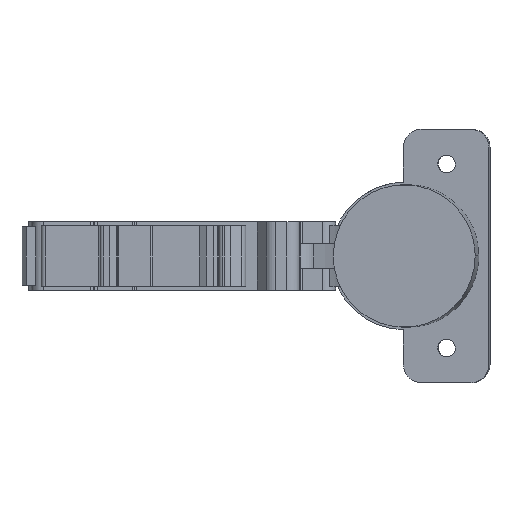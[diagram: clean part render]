
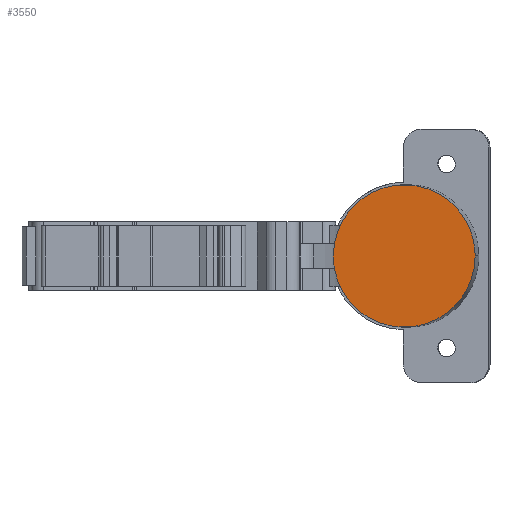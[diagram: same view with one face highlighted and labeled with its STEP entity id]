
A CAD part, front view. The second image highlights one B-rep face of the part: STEP entity #3550.
In plain terms, the highlighted planar face has unit normal (-0.087, -0.996, 0).
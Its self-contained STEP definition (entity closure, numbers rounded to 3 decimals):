
#28 = AXIS2_PLACEMENT_3D ( 'NONE', #1214, #7358, #3665 ) ;
#125 = CARTESIAN_POINT ( 'NONE',  ( 52.025, -4.965, 15.1 ) ) ;
#149 = CARTESIAN_POINT ( 'NONE',  ( 72.168, -6.716, 13.109 ) ) ;
#471 = CARTESIAN_POINT ( 'NONE',  ( 76.293, -7.075, -7.711 ) ) ;
#505 = CARTESIAN_POINT ( 'NONE',  ( 58.443, -5.523, -17.288 ) ) ;
#528 = CARTESIAN_POINT ( 'NONE',  ( 43.49, -4.222, -2.278 ) ) ;
#737 = CARTESIAN_POINT ( 'NONE',  ( 55.127, -5.234, 16.511 ) ) ;
#769 = CARTESIAN_POINT ( 'NONE',  ( 74.495, -6.919, 10.614 ) ) ;
#1077 = CARTESIAN_POINT ( 'NONE',  ( 74.495, -6.919, -10.614 ) ) ;
#1106 = CARTESIAN_POINT ( 'NONE',  ( 55.127, -5.234, -16.511 ) ) ;
#1133 = CARTESIAN_POINT ( 'NONE',  ( 43.378, -4.212, 0. ) ) ;
#1172 = VERTEX_POINT ( 'NONE', #6569 ) ;
#1214 = CARTESIAN_POINT ( 'NONE',  ( 72.966, -6.786, -5.564 ) ) ;
#1250 = EDGE_LOOP ( 'NONE', ( #2475, #2869 ) ) ;
#1318 = CARTESIAN_POINT ( 'NONE',  ( 43.49, -4.222, 2.278 ) ) ;
#1350 = CARTESIAN_POINT ( 'NONE',  ( 58.443, -5.523, 17.288 ) ) ;
#1370 = CARTESIAN_POINT ( 'NONE',  ( 76.293, -7.075, 7.711 ) ) ;
#1677 = CARTESIAN_POINT ( 'NONE',  ( 72.168, -6.716, -13.109 ) ) ;
#1713 = CARTESIAN_POINT ( 'NONE',  ( 52.025, -4.965, -15.1 ) ) ;
#1923 = CARTESIAN_POINT ( 'NONE',  ( 44.263, -4.289, 5.607 ) ) ;
#1947 = CARTESIAN_POINT ( 'NONE',  ( 61.847, -5.819, 17.4 ) ) ;
#1972 = CARTESIAN_POINT ( 'NONE',  ( 77.493, -7.179, 4.512 ) ) ;
#1978 = EDGE_CURVE ( 'NONE', #7668, #1172, #3894, .T. ) ;
#2301 = CARTESIAN_POINT ( 'NONE',  ( 69.4, -6.476, -15.1 ) ) ;
#2325 = CARTESIAN_POINT ( 'NONE',  ( 49.257, -4.724, -13.109 ) ) ;
#2475 = ORIENTED_EDGE ( 'NONE', *, *, #7250, .F. ) ;
#2541 = CARTESIAN_POINT ( 'NONE',  ( 45.669, -4.412, 8.72 ) ) ;
#2573 = CARTESIAN_POINT ( 'NONE',  ( 65.207, -6.111, 16.843 ) ) ;
#2599 = CARTESIAN_POINT ( 'NONE',  ( 78.047, -7.228, 1.139 ) ) ;
#2830 = CARTESIAN_POINT ( 'NONE',  ( 43.378, -4.212, 0. ) ) ;
#2869 = ORIENTED_EDGE ( 'NONE', *, *, #1978, .F. ) ;
#2909 = CARTESIAN_POINT ( 'NONE',  ( 66.298, -6.206, -16.511 ) ) ;
#2937 = CARTESIAN_POINT ( 'NONE',  ( 46.93, -4.521, -10.614 ) ) ;
#3039 = PLANE ( 'NONE',  #28 ) ;
#3156 = CARTESIAN_POINT ( 'NONE',  ( 47.653, -4.584, 11.498 ) ) ;
#3183 = CARTESIAN_POINT ( 'NONE',  ( 68.394, -6.388, 15.64 ) ) ;
#3412 = B_SPLINE_CURVE_WITH_KNOTS ( 'NONE', 3,
 ( #2830, #7439, #1318, #5603, #1923, #6233, #2541, #6857, #3156, #7460, #3777, #125, #4408, #737, #5021, #1350, #5630, #1947, #6260, #2573, #6882, #3183, #7492, #3806, #149, #4430, #769, #5049, #1370, #5661, #1972, #6286, #2599, #6909 ),
 .UNSPECIFIED., .F., .F.,
 ( 4, 2, 2, 2, 2, 2, 2, 2, 2, 2, 2, 2, 2, 2, 2, 2, 4 ),
 ( 0., 0.062, 0.125, 0.187, 0.25, 0.312, 0.375, 0.437, 0.5, 0.562, 0.625, 0.687, 0.75, 0.812, 0.875, 0.938, 1. ),
 .UNSPECIFIED. ) ;
#3508 = CARTESIAN_POINT ( 'NONE',  ( 77.935, -7.218, -2.278 ) ) ;
#3539 = CARTESIAN_POINT ( 'NONE',  ( 62.982, -5.917, -17.288 ) ) ;
#3550 = ADVANCED_FACE ( 'NONE', ( #7392 ), #3039, .F. ) ;
#3567 = CARTESIAN_POINT ( 'NONE',  ( 45.132, -4.365, -7.711 ) ) ;
#3665 = DIRECTION ( 'NONE',  ( 0., 0., -1. ) ) ;
#3777 = CARTESIAN_POINT ( 'NONE',  ( 50.139, -4.8, 13.835 ) ) ;
#3806 = CARTESIAN_POINT ( 'NONE',  ( 71.286, -6.64, 13.835 ) ) ;
#3894 = B_SPLINE_CURVE_WITH_KNOTS ( 'NONE', 3,
 ( #6586, #5341, #3508, #7810, #4144, #471, #4750, #1077, #5371, #1677, #5983, #2301, #6611, #2909, #7231, #3539, #7836, #4166, #505, #4776, #1106, #5397, #1713, #6008, #2325, #6644, #2937, #7254, #3567, #7868, #4191, #528, #4809, #1133 ),
 .UNSPECIFIED., .F., .F.,
 ( 4, 2, 2, 2, 2, 2, 2, 2, 2, 2, 2, 2, 2, 2, 2, 2, 4 ),
 ( 0., 0.063, 0.125, 0.188, 0.25, 0.313, 0.375, 0.438, 0.5, 0.563, 0.625, 0.688, 0.75, 0.813, 0.875, 0.938, 1. ),
 .UNSPECIFIED. ) ;
#4144 = CARTESIAN_POINT ( 'NONE',  ( 77.162, -7.151, -5.607 ) ) ;
#4166 = CARTESIAN_POINT ( 'NONE',  ( 59.578, -5.621, -17.4 ) ) ;
#4191 = CARTESIAN_POINT ( 'NONE',  ( 43.932, -4.261, -4.512 ) ) ;
#4408 = CARTESIAN_POINT ( 'NONE',  ( 53.031, -5.052, 15.64 ) ) ;
#4430 = CARTESIAN_POINT ( 'NONE',  ( 73.772, -6.856, 11.498 ) ) ;
#4750 = CARTESIAN_POINT ( 'NONE',  ( 75.756, -7.028, -8.72 ) ) ;
#4776 = CARTESIAN_POINT ( 'NONE',  ( 56.218, -5.329, -16.843 ) ) ;
#4809 = CARTESIAN_POINT ( 'NONE',  ( 43.378, -4.212, -1.139 ) ) ;
#5021 = CARTESIAN_POINT ( 'NONE',  ( 56.218, -5.329, 16.843 ) ) ;
#5038 = CARTESIAN_POINT ( 'NONE',  ( 78.047, -7.228, 0. ) ) ;
#5049 = CARTESIAN_POINT ( 'NONE',  ( 75.756, -7.028, 8.72 ) ) ;
#5341 = CARTESIAN_POINT ( 'NONE',  ( 78.047, -7.228, -1.139 ) ) ;
#5371 = CARTESIAN_POINT ( 'NONE',  ( 73.772, -6.856, -11.498 ) ) ;
#5397 = CARTESIAN_POINT ( 'NONE',  ( 53.031, -5.052, -15.64 ) ) ;
#5603 = CARTESIAN_POINT ( 'NONE',  ( 43.932, -4.261, 4.512 ) ) ;
#5630 = CARTESIAN_POINT ( 'NONE',  ( 59.578, -5.621, 17.4 ) ) ;
#5661 = CARTESIAN_POINT ( 'NONE',  ( 77.162, -7.151, 5.607 ) ) ;
#5983 = CARTESIAN_POINT ( 'NONE',  ( 71.286, -6.64, -13.835 ) ) ;
#6008 = CARTESIAN_POINT ( 'NONE',  ( 50.139, -4.8, -13.835 ) ) ;
#6233 = CARTESIAN_POINT ( 'NONE',  ( 45.132, -4.365, 7.711 ) ) ;
#6260 = CARTESIAN_POINT ( 'NONE',  ( 62.982, -5.917, 17.288 ) ) ;
#6286 = CARTESIAN_POINT ( 'NONE',  ( 77.935, -7.218, 2.278 ) ) ;
#6569 = CARTESIAN_POINT ( 'NONE',  ( 43.378, -4.212, 0. ) ) ;
#6586 = CARTESIAN_POINT ( 'NONE',  ( 78.047, -7.228, 0. ) ) ;
#6611 = CARTESIAN_POINT ( 'NONE',  ( 68.394, -6.388, -15.64 ) ) ;
#6644 = CARTESIAN_POINT ( 'NONE',  ( 47.653, -4.584, -11.498 ) ) ;
#6857 = CARTESIAN_POINT ( 'NONE',  ( 46.93, -4.521, 10.614 ) ) ;
#6882 = CARTESIAN_POINT ( 'NONE',  ( 66.298, -6.206, 16.511 ) ) ;
#6909 = CARTESIAN_POINT ( 'NONE',  ( 78.047, -7.228, 0. ) ) ;
#7231 = CARTESIAN_POINT ( 'NONE',  ( 65.207, -6.111, -16.843 ) ) ;
#7250 = EDGE_CURVE ( 'NONE', #1172, #7668, #3412, .T. ) ;
#7254 = CARTESIAN_POINT ( 'NONE',  ( 45.669, -4.412, -8.72 ) ) ;
#7358 = DIRECTION ( 'NONE',  ( 0.087, 0.996, 0. ) ) ;
#7392 = FACE_OUTER_BOUND ( 'NONE', #1250, .T. ) ;
#7439 = CARTESIAN_POINT ( 'NONE',  ( 43.378, -4.212, 1.139 ) ) ;
#7460 = CARTESIAN_POINT ( 'NONE',  ( 49.257, -4.724, 13.109 ) ) ;
#7492 = CARTESIAN_POINT ( 'NONE',  ( 69.4, -6.476, 15.1 ) ) ;
#7668 = VERTEX_POINT ( 'NONE', #5038 ) ;
#7810 = CARTESIAN_POINT ( 'NONE',  ( 77.493, -7.179, -4.512 ) ) ;
#7836 = CARTESIAN_POINT ( 'NONE',  ( 61.847, -5.819, -17.4 ) ) ;
#7868 = CARTESIAN_POINT ( 'NONE',  ( 44.263, -4.289, -5.607 ) ) ;
